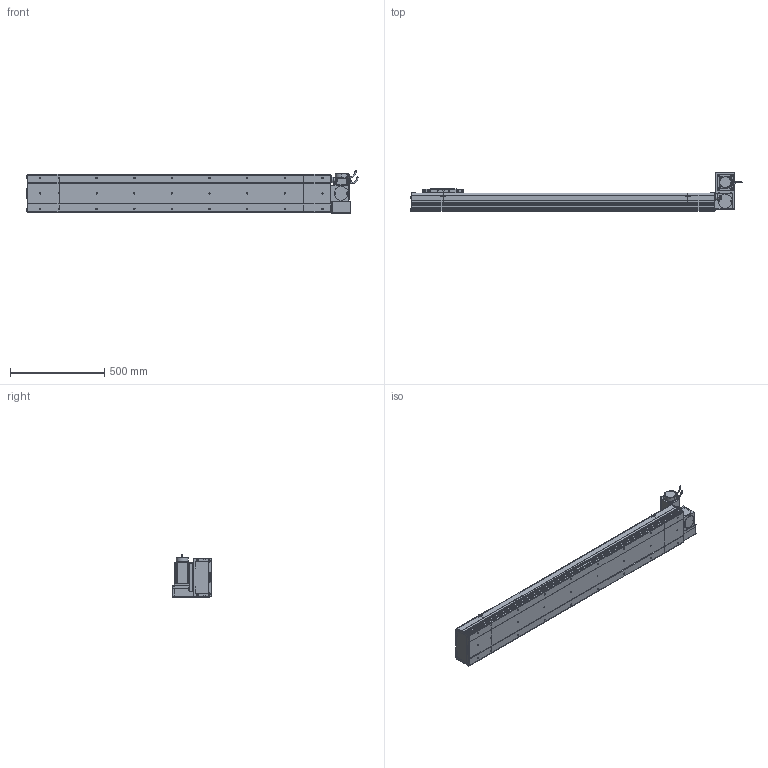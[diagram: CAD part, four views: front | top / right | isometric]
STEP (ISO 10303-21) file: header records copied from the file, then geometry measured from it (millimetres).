
FILE_DESCRIPTION (( 'STEP AP214' ), '1' );
FILE_NAME ('D20 CBH RT S1300.STEP', '2010-06-30T08:59:37', ( 'Conseil Régional Haute-Normandie' ), ( 'Conseil Régional Haute-Normandie' ), 'SwSTEP 2.0', 'SolidWorks 2010', '' );
FILE_SCHEMA (( 'AUTOMOTIVE_DESIGN' ));
Length unit declared in the file: millimetre
Products named in the file (31): Support Chariot D20_Default; vis M5 L15_Default; Corp Tail D20+100_Default; Tail D20+100_Default; Couvercle S1300_Default; Plaque De Serrage D20_Default; Plaque de Bout Tail D20_Default; Couvercle_Default; Corp S1300_Default; Corp D20 S1300_Default; Glissiere_Default; Chariot D20_Default; D20 CBH RT S1300; Couvercle RT_Default; Corp Tail D20 RT_Default; Head RT_Default; Support moteur RT_Default; Plaque De Serrage D20 RT_Default; Plaque de Bout Head D20 RT_Default; corps 90BLDC125A-640; avant 90BLDC125A-640; Moteur motionking 90BLDC125A-640; Conecteur_Default; Conecteur2_Default; codeur 90BLDC125-640; Cache Support Moteur RT_Default; ecrou_Default; vis M5 L30_Default; Rondelle Cache D20 RT_Default; vis M5 L47_Default
Assembly tree (68 placements, depth 4):
  D20 CBH RT S1300
    Tail D20+100_Default
      Plaque De Serrage D20_Default
      Plaque de Bout Tail D20_Default
      Couvercle_Default
      vis M5 L15_Default  x6
      Corp Tail D20+100_Default
    Corp D20 S1300_Default
      Couvercle S1300_Default
      Corp S1300_Default
    Head RT_Default
      vis M5 L15_Default  x14
      ecrou_Default  x4
      Rondelle Cache D20 RT_Default  x3
      vis M5 L47_Default  x4
      vis M5 L30_Default  x4
      Plaque de Bout Head D20 RT_Default
      Couvercle RT_Default
      Cache Support Moteur RT_Default
      Plaque De Serrage D20 RT_Default
      Moteur motionking 90BLDC125A-640
        codeur 90BLDC125-640
        corps 90BLDC125A-640
        Conecteur2_Default
        avant 90BLDC125A-640
        Conecteur_Default
      Corp Tail D20 RT_Default
      Support moteur RT_Default
    Chariot D20_Default
      vis M5 L15_Default  x8
      Chariot D20_Default
      Glissiere_Default
      Support Chariot D20_Default
Bounding box: 1764.45 x 206.5 x 229.7 mm (x, y, z)
Volume: 12501625.9 mm3; surface area: 2494860.4 mm2
Topology: 105 solids, 105 shells, 3793 faces, 9462 edges, 6142 vertices
Faces by surface type: plane 2122, bspline 806, cylinder 694, torus 95, cone 72, sphere 4
Entity records: 158870 total; most frequent: CARTESIAN_POINT 82229, ORIENTED_EDGE 15192, DIRECTION 11494, EDGE_CURVE 7596, VERTEX_POINT 5026, LINE 4936, VECTOR 4936, AXIS2_PLACEMENT_3D 3279
